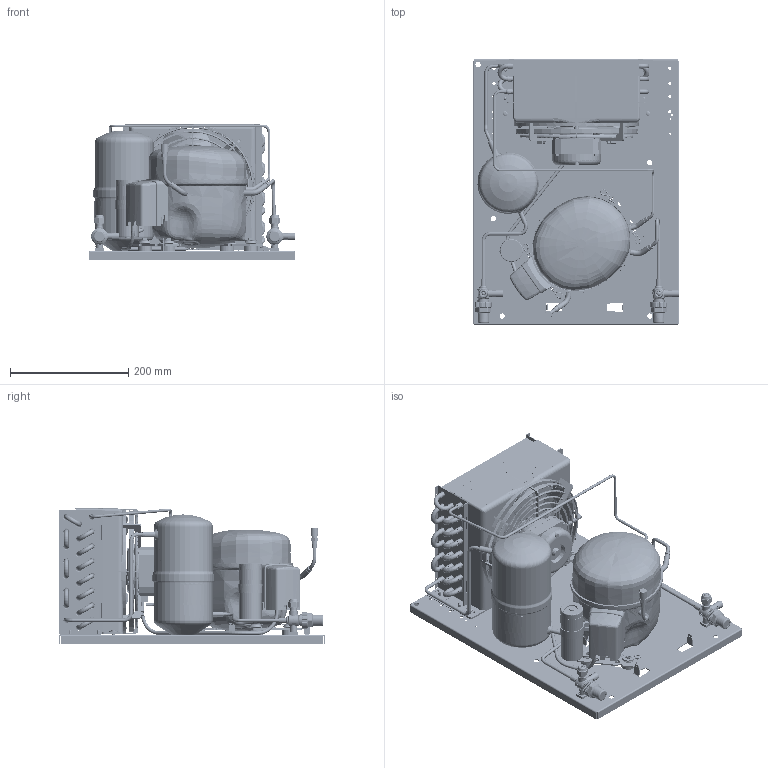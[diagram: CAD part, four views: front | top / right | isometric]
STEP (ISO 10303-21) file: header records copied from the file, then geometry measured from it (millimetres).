
FILE_DESCRIPTION(/* description */ ('Unknown'),/* implementation_level */ '2;1');
FILE_NAME(/* name */ '2298-0012',/* time_stamp */ '2021-12-15T09:06:29+01:00',/* author */ ('Unknown'),/* organization */ ('Unknown'),/* preprocessor_version */ 'ST-DEVELOPER v16.7',/* originating_system */ 'Solid Edge',/* authorisation */ 'Unknown');
FILE_SCHEMA (('AUTOMOTIVE_DESIGN {1 0 10303 214 3 1 1}'));
Length unit declared in the file: millimetre
Products named in the file (41): 2298-0012; 92505122; a200-28; 84DM8X6.9XXESRF00; tl5g-a-csir; 84fm8x12xxxteff00; 100_200vs00; aa600709x; 6062_22M6; 84v1.8x35xxcopf00; 8392_A; 84RM10X21XXPIAF00; sc18cl-a-csr_piedino; 7210-0003; 7010_22; 7560_2; 7560_3; 84a4.2x9.5xtbcf01; 99000082_secop; 84t4.8x8xxxtcca00_oa_0; 84t4.8x8xxxtcca00_oa_1; 84t4.8x8xxxtcca00_oa_2; 84t4.8x8xxxtcca00_oa_3; 680063695; 84dm4x3.6xxesrf00; 99510255_Curva120°; 8351_2; 99510255_Tubo_Curva120°; 0830210a70; r50073706; r50073707; R59700251; 2990210; r50073701; 99000082_SECOP_F-GAS; cg200n; 2298-0012_CAVO_VENTOLA; 6803-1336; 84RM5X15XXXPIAF00; 6801-0074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
Assembly tree (83 placements, depth 3):
  2298-0012
    92505122
    a200-28
    84DM8X6.9XXESRF00
    tl5g-a-csir
    84fm8x12xxxteff00  x2
    100_200vs00
    aa600709x
    6062_22M6  x2
    84v1.8x35xxcopf00  x4
    8392_A  x3
    84RM10X21XXPIAF00  x4
    sc18cl-a-csr_piedino  x4
    7210-0003  x2
    7010_22  x2
    7560_2
    7560_3
    84a4.2x9.5xtbcf01  x2
    99000082_secop
    84t4.8x8xxxtcca00_oa_0
    84t4.8x8xxxtcca00_oa_1
    84t4.8x8xxxtcca00_oa_2
    84t4.8x8xxxtcca00_oa_3
    680063695
    84dm4x3.6xxesrf00  x4
    99510255_Curva120°
      8351_2
      99510255_Tubo_Curva120°
      8392_A
    0830210a70
      r50073706
      r50073707
      R59700251  x13
      2990210  x11
      r50073701
    99000082_SECOP_F-GAS
    cg200n
    2298-0012_CAVO_VENTOLA
    6803-1336
    84RM5X15XXXPIAF00  x2
    6801-0074
    6803-1228
Bounding box: 350 x 450 x 229.32 mm (x, y, z)
Volume: 3866168.6 mm3; surface area: 1955198.4 mm2
Topology: 84 solids, 91 shells, 7416 faces, 18792 edges, 12232 vertices
Faces by surface type: plane 4663, cylinder 1167, bspline 688, torus 451, cone 419, sphere 28
Full cylindrical faces by diameter (mm): 1 x4, 1.2 x4, 1.8 x20, 2.2 x8, 2.31 x5, 2.7 x4, 3 x10, 3.2 x1, 3.242 x4, 3.3 x2, 3.5 x18, 3.6 x4, 3.7 x4, 3.76 x6, 3.85 x2, 4 x11, 4.2 x15, 4.3 x2, 4.4 x4, 4.66 x4, 4.7 x4, 4.76 x6, 5 x21, 5.2 x1, 5.4 x2, 5.5 x14, 6 x25, 6.1 x2, 6.2 x6, 6.6 x2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
Entity records: 267910 total; most frequent: CARTESIAN_POINT 98602, ORIENTED_EDGE 30554, DIRECTION 23242, EDGE_CURVE 15277, VERTEX_POINT 10460, FACE_BOUND 8475, EDGE_LOOP 8474, AXIS2_PLACEMENT_3D 8300
